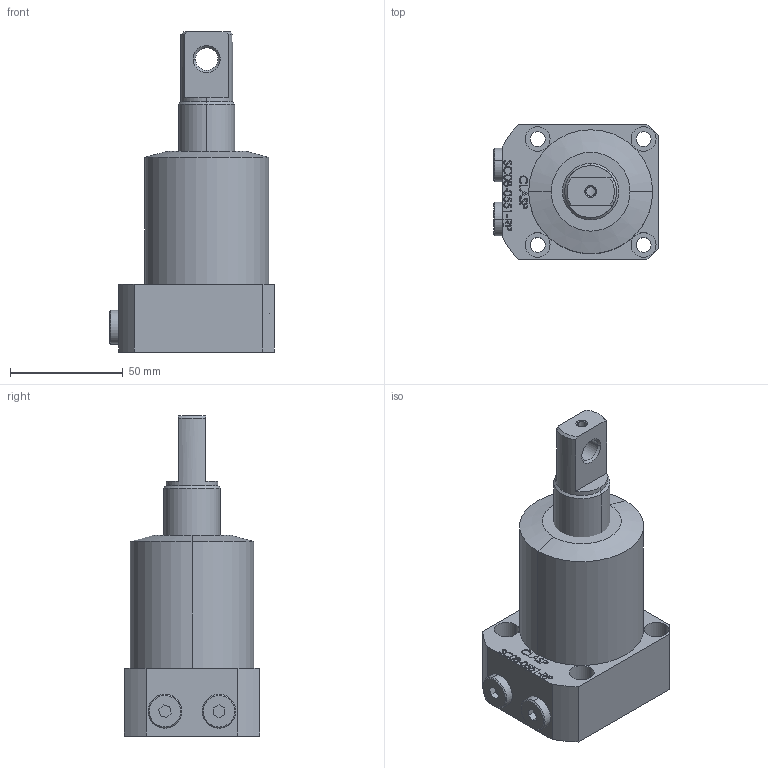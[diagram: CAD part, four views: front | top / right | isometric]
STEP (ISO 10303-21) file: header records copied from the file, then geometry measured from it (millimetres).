
FILE_DESCRIPTION (( 'STEP AP203' ), '1' );
FILE_NAME ('SC08-0551-RP.STEP', '2022-07-08T17:02:07', ( '' ), ( '' ), 'SwSTEP 2.0', 'SolidWorks 2017', '' );
FILE_SCHEMA (( 'CONFIG_CONTROL_DESIGN' ));
Length unit declared in the file: millimetre
Products named in the file (4): SC-08-0551-RP BODY; SC-08-0551-RP-Piston; SC-08-0551-RP-05 plug; SC08-0551-RP
Assembly tree (4 placements, depth 2):
  SC08-0551-RP
    SC-08-0551-RP BODY
    SC-08-0551-RP-Piston
    SC-08-0551-RP-05 plug  x2
Bounding box: 73 x 60 x 142 mm (x, y, z)
Volume: 281634.8 mm3; surface area: 38102.4 mm2
Topology: 4 solids, 4 shells, 337 faces, 842 edges, 554 vertices
Faces by surface type: plane 149, bspline 116, cylinder 50, cone 22
Entity records: 16686 total; most frequent: CARTESIAN_POINT 9189, ORIENTED_EDGE 1620, DIRECTION 1112, EDGE_CURVE 810, VERTEX_POINT 534, VECTOR 458, LINE 458, EDGE_LOOP 374
